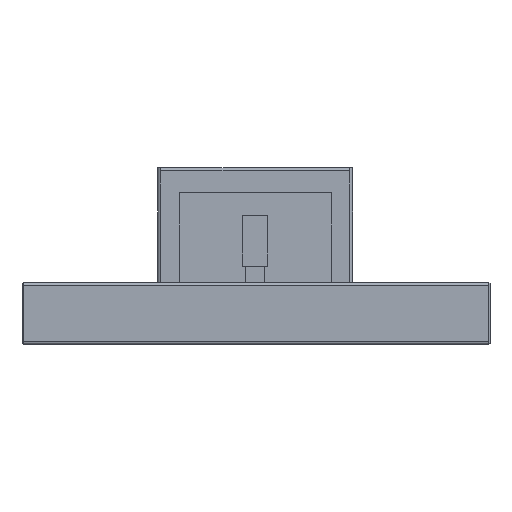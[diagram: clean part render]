
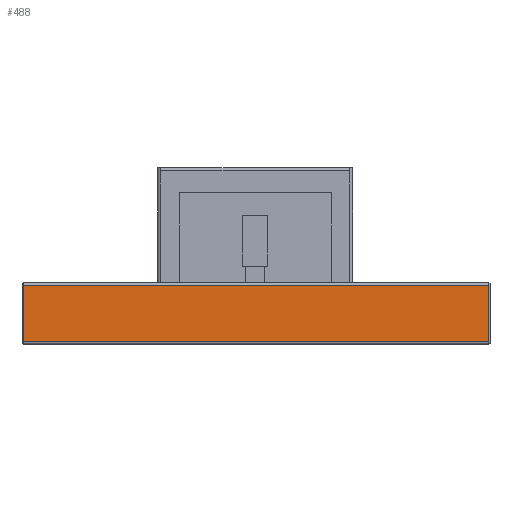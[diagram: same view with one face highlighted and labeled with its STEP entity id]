
A CAD part, front view. The second image highlights one B-rep face of the part: STEP entity #488.
In plain terms, the highlighted planar face has unit normal (0, -1, 0).
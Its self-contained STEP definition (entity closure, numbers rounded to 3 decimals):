
#13=DIRECTION('',(0.,0.,-1.));
#14=VECTOR('',#13,44.);
#15=CARTESIAN_POINT('',(182.,0.,22.));
#16=LINE('',#15,#14);
#17=DIRECTION('',(0.,0.,1.));
#18=VECTOR('',#17,44.);
#19=CARTESIAN_POINT('',(-182.,0.,-22.));
#20=LINE('',#19,#18);
#21=DIRECTION('',(1.,0.,0.));
#22=VECTOR('',#21,364.);
#23=CARTESIAN_POINT('',(-182.,0.,22.));
#24=LINE('',#23,#22);
#57=DIRECTION('',(-1.,0.,0.));
#58=VECTOR('',#57,364.);
#59=CARTESIAN_POINT('',(182.,0.,-22.));
#60=LINE('',#59,#58);
#409=CARTESIAN_POINT('',(-182.,0.,-22.));
#410=CARTESIAN_POINT('',(-182.,0.,22.));
#411=VERTEX_POINT('',#409);
#412=VERTEX_POINT('',#410);
#413=CARTESIAN_POINT('',(182.,0.,22.));
#414=CARTESIAN_POINT('',(182.,0.,-22.));
#415=VERTEX_POINT('',#413);
#416=VERTEX_POINT('',#414);
#473=CARTESIAN_POINT('',(0.,0.,0.));
#474=DIRECTION('',(0.,1.,0.));
#475=DIRECTION('',(1.,0.,0.));
#476=AXIS2_PLACEMENT_3D('',#473,#474,#475);
#477=PLANE('',#476);
#479=ORIENTED_EDGE('',*,*,#478,.T.);
#481=ORIENTED_EDGE('',*,*,#480,.T.);
#483=ORIENTED_EDGE('',*,*,#482,.T.);
#485=ORIENTED_EDGE('',*,*,#484,.T.);
#486=EDGE_LOOP('',(#479,#481,#483,#485));
#487=FACE_OUTER_BOUND('',#486,.F.);
#478=EDGE_CURVE('',#412,#415,#24,.T.);
#480=EDGE_CURVE('',#415,#416,#16,.T.);
#482=EDGE_CURVE('',#416,#411,#60,.T.);
#484=EDGE_CURVE('',#411,#412,#20,.T.);
#488=ADVANCED_FACE('',(#487),#477,.F.);
